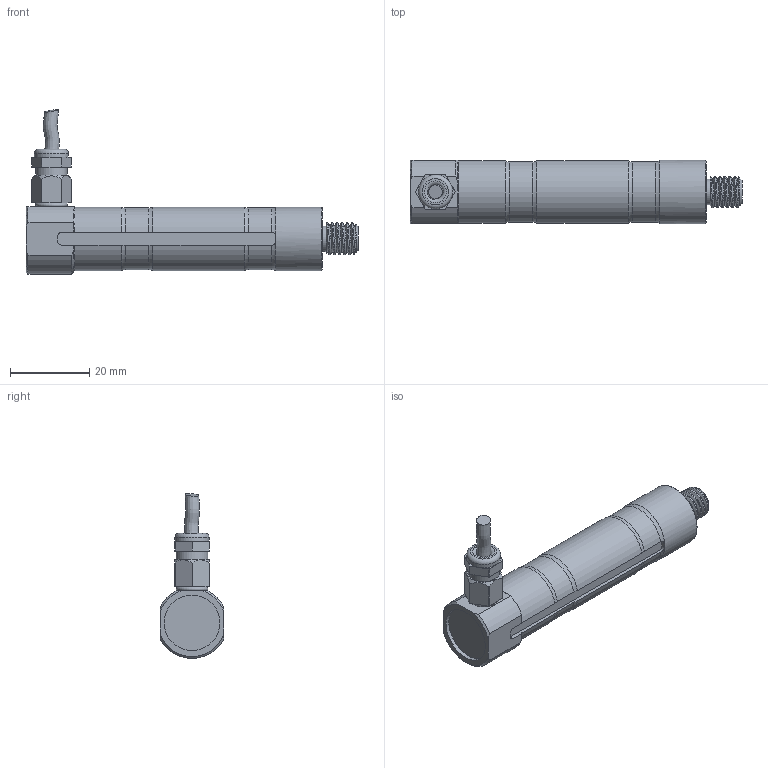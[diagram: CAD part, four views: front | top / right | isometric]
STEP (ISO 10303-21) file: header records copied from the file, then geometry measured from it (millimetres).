
FILE_DESCRIPTION(/* description */ ('Alibre Inc.'),/* implementation_level */ '2;1');
FILE_NAME(/* name */ 'export0',/* time_stamp */ '2018-08-20T16:13:26+02:00',/* author */ (''),/* organization */ (''),/* preprocessor_version */ 'ST-DEVELOPER v17',/* originating_system */ 'Alibre',/* authorisation */ '');
FILE_SCHEMA (('CONFIG_CONTROL_DESIGN'));
Length unit declared in the file: centimetre
Products named in the file (6): ID_1; ID_2; ID_3
Bounding box: 83.7 x 16 x 41.54 mm (x, y, z)
Volume: 15982.6 mm3; surface area: 5919.3 mm2
Topology: 4 solids, 4 shells, 109 faces, 279 edges, 183 vertices
Faces by surface type: plane 41, cylinder 40, torus 13, cone 11, bspline 4
Full cylindrical faces by diameter (mm): 3.5 x1, 4.917 x1, 6 x1, 6.4 x1, 8 x1, 8.6 x1, 14 x1, 16 x1
Entity records: 5273 total; most frequent: CARTESIAN_POINT 2447, ORIENTED_EDGE 510, DIRECTION 364, EDGE_CURVE 255, VERTEX_POINT 178, AXIS2_PLACEMENT_3D 152, FACE_BOUND 135, EDGE_LOOP 133
